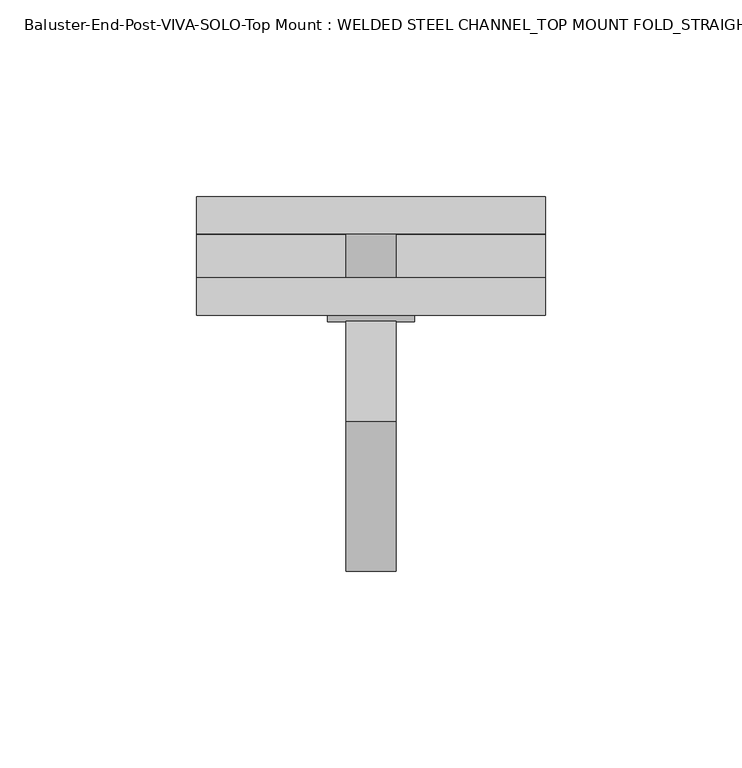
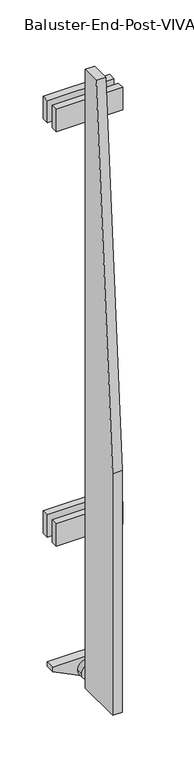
"""IFC4 building model written with IfcOpenShell, lengths in millimetres: proxy geometry, Baluster-End-Post-VIVA-SOLO-Top Mount : WELDED STEEL CHANNEL_TOP MOUNT FOLD_STRAIGHT."""

from ifc_helpers import new_model, si_unit, point, frame, frame_2d, origin, place, context, project, spatial, polyline, circle_curve, trimmed, segment, composite_curve, outline, extrude, source, transform, mapped, element, save


def baluster_end_post_viva_solo_top_mount_welded_steel_channel_e8a737ba(model_context):
    return source(origin(), model_context, "Body", "SweptSolid", [
        extrude(outline(polyline([(-52.1175389, 914.8205071), (-52.1175389, 39.165025), (-115.6175389, 39.165025), (-115.6175389, 381.4205071), (-77.5175389, 914.8205071), (-52.1175389, 914.8205071)])), frame((-6.35, 0.0, 0.0), z_axis=(1.0, 0.0, 0.0), x_axis=(0.0, 1.0, 0.0)), (0.0, 0.0, 1.0), 12.7),
        extrude(outline(composite_curve([segment(trimmed(circle_curve(frame_2d((268.5208758, 0.0)), 6.35), [point((268.5208758, -6.35))], [point((268.5208758, 6.35))], False, "CARTESIAN"), True, "CONTINUOUS"), segment(trimmed(circle_curve(frame_2d((268.5208758, 0.0)), 6.35), [point((268.5208758, 6.35))], [point((268.5208758, -6.35))], False, "CARTESIAN"), True, "CONTINUOUS")], self_intersect=False)), frame((0.0, -42.5925389, 0.0), z_axis=(0.0, 1.0, 0.0), x_axis=(0.0, 0.0, 1.0)), (0.0, 0.0, 1.0), 12.7),
        extrude(outline(composite_curve([segment(trimmed(circle_curve(frame_2d((854.776764, 0.0)), 6.35), [point((854.776764, -6.35))], [point((854.776764, 6.35))], False, "CARTESIAN"), True, "CONTINUOUS"), segment(trimmed(circle_curve(frame_2d((854.776764, 0.0)), 6.35), [point((854.776764, 6.35))], [point((854.776764, -6.35))], False, "CARTESIAN"), True, "CONTINUOUS")], self_intersect=False)), frame((0.0, -42.5925389, 0.0), z_axis=(0.0, 1.0, 0.0), x_axis=(0.0, 0.0, 1.0)), (0.0, 0.0, 1.0), 12.7),
        extrude(outline(composite_curve([segment(trimmed(circle_curve(frame_2d((60.8777263, 0.0)), 11.1125), [point((60.8777263, -11.1125))], [point((60.8777263, 11.1125))], False, "CARTESIAN"), True, "CONTINUOUS"), segment(trimmed(circle_curve(frame_2d((60.8777263, 0.0)), 11.1125), [point((60.8777263, 11.1125))], [point((60.8777263, -11.1125))], False, "CARTESIAN"), True, "CONTINUOUS")], self_intersect=False)), frame((0.0, -52.1175389, 0.0), z_axis=(0.0, 1.0, 0.0), x_axis=(0.0, 0.0, 1.0)), (0.0, 0.0, 1.0), 25.4),
        extrude(outline(polyline([(44.45, -20.3675389), (44.45, -29.8925389), (-44.45, -29.8925389), (-44.45, -20.3675389), (44.45, -20.3675389)])), frame((0.0, 0.0, 838.7824344), z_axis=(0.0, 0.0, 1.0), x_axis=(1.0, 0.0, 0.0)), (0.0, 0.0, 1.0), 31.75),
        extrude(outline(polyline([(44.45, -20.3675389), (44.45, -29.8925389), (-44.45, -29.8925389), (-44.45, -20.3675389), (44.45, -20.3675389)])), frame((0.0, 0.0, 252.4484609), z_axis=(0.0, 0.0, 1.0), x_axis=(1.0, 0.0, 0.0)), (0.0, 0.0, 1.0), 31.75),
        extrude(outline(polyline([(70.3302675, -44.45), (48.4156188, 0.0), (70.3302675, 44.45), (76.6802675, 44.45), (76.6802675, -44.45), (70.3302675, -44.45)])), frame((0.0, -42.5925389, 0.0), z_axis=(0.0, 1.0, 0.0), x_axis=(0.0, 0.0, 1.0)), (0.0, 0.0, 1.0), 12.7),
        extrude(outline(polyline([(44.45, -40.984781), (44.45, -50.509781), (-44.45, -50.509781), (-44.45, -40.984781), (44.45, -40.984781)])), frame((0.0, 0.0, 838.7824344), z_axis=(0.0, 0.0, 1.0), x_axis=(1.0, 0.0, 0.0)), (0.0, 0.0, 1.0), 31.75),
        extrude(outline(polyline([(44.45, -40.984781), (44.45, -50.509781), (-44.45, -50.509781), (-44.45, -40.984781), (44.45, -40.984781)])), frame((0.0, 0.0, 252.4484609), z_axis=(0.0, 0.0, 1.0), x_axis=(1.0, 0.0, 0.0)), (0.0, 0.0, 1.0), 31.75),
    ])


if __name__ == "__main__":
    model = new_model("IFC4")
    model_context = context("Model", 3, world=origin())
    ifc_project = project(units=[si_unit("LENGTHUNIT", "METRE", prefix="MILLI")], contexts=[model_context])
    site = spatial("IfcSite", under=ifc_project)
    building = spatial("IfcBuilding", under=site)
    placement = place(None, origin())
    baluster_end_post_viva_solo_top_mount_welded_steel_channel_shape = baluster_end_post_viva_solo_top_mount_welded_steel_channel_e8a737ba(model_context)
    element("IfcBuildingElementProxy", 1, Name="Baluster-End-Post-VIVA-SOLO-Top Mount : WELDED STEEL CHANNEL_TOP MOUNT FOLD_STRAIGHT", ObjectType="Baluster-End-Post-VIVA-SOLO-Top Mount : WELDED STEEL CHANNEL_TOP MOUNT FOLD_STRAIGHT", at=placement, inside=building, context=model_context, shape_type="MappedRepresentation", body=[
        mapped(baluster_end_post_viva_solo_top_mount_welded_steel_channel_shape, transform((0.0, 0.0, 0.0), x_axis=(1.0, 0.0, 0.0), y_axis=(0.0, 1.0, 0.0), z_axis=(0.0, 0.0, 1.0))),
    ])
    save(model, "model.ifc")
